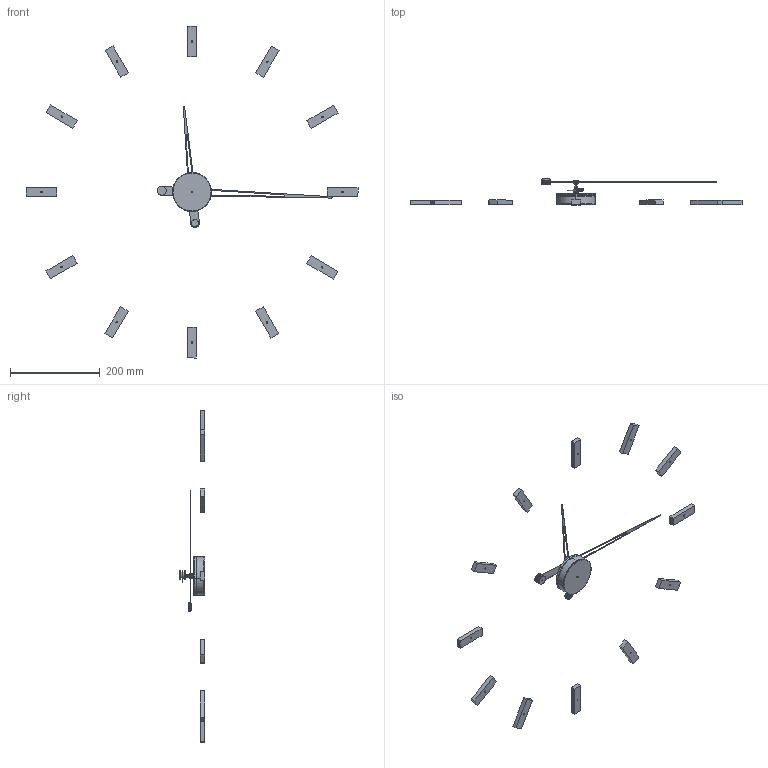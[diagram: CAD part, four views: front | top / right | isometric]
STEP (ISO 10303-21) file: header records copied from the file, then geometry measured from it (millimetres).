
FILE_DESCRIPTION (( 'STEP AP214' ), '1' );
FILE_NAME ('Tacón_i.STEP', '2016-09-15T10:44:43', ( '' ), ( '' ), 'SwSTEP 2.0', 'SolidWorks 2013', '' );
FILE_SCHEMA (( 'AUTOMOTIVE_DESIGN' ));
Length unit declared in the file: millimetre
Products named in the file (22): Pieza2; Contrapeso_pequeño; Contrapeso_mediano; aguja_minutera_calada_inox; Tuerca 1.5; Tacón_i; Caja_acero_inox; Esparrago; pasante; Pieza_caja_superior; Tuerca; Aguja_horaria_calada_inox; Mecanismo; arandela; Pieza_caja_inferior; Señal_horaria_Tacón; Cierre_contrapeso; Embellecedor; Aguja_minutera_calada_inox; arandela_2; aguja_horaria_calada_inox; Axioma_i
Assembly tree (34 placements, depth 4):
  Tacón_i
    Axioma_i
      Caja_acero_inox
        Pieza_caja_inferior
        Pieza_caja_superior
        Mecanismo
        Pieza2
      Aguja_minutera_calada_inox
        aguja_minutera_calada_inox
        Contrapeso_mediano  x2
        arandela_2
        Tuerca 1.5
        Embellecedor
        Esparrago
      Aguja_horaria_calada_inox
        aguja_horaria_calada_inox
        Contrapeso_pequeño
        Cierre_contrapeso
        arandela
        Tuerca
        pasante
        arandela_2
    Señal_horaria_Tacón  x12
Bounding box: 740 x 57.3 x 740 mm (x, y, z)
Volume: 232964.9 mm3; surface area: 129989.7 mm2
Topology: 30 solids, 30 shells, 333 faces, 686 edges, 442 vertices
Faces by surface type: plane 161, cylinder 134, torus 26, cone 12
Entity records: 6928 total; most frequent: DIRECTION 1236, CARTESIAN_POINT 1007, ORIENTED_EDGE 916, AXIS2_PLACEMENT_3D 519, EDGE_CURVE 458, VERTEX_POINT 290, EDGE_LOOP 262, CIRCLE 260
